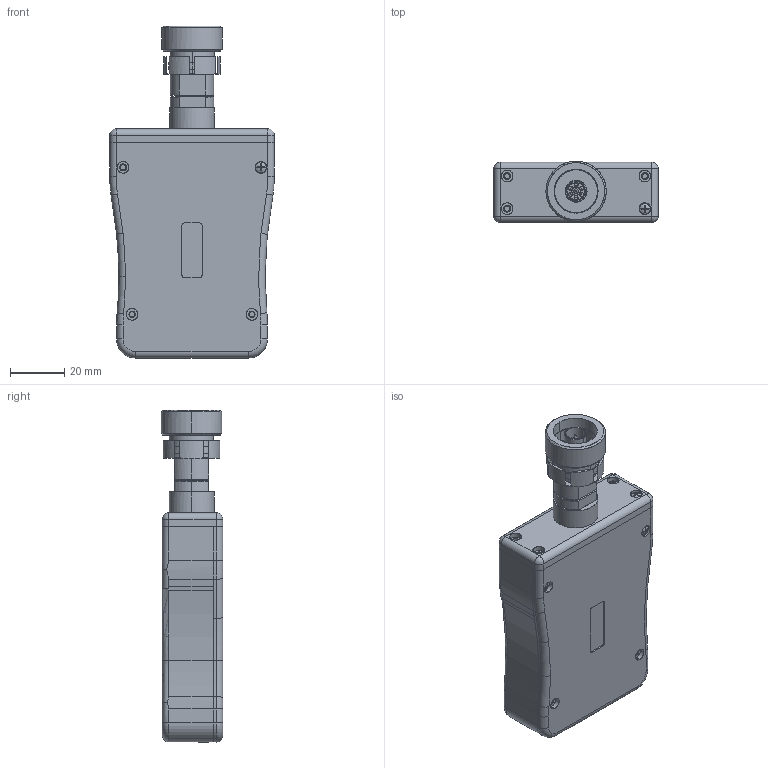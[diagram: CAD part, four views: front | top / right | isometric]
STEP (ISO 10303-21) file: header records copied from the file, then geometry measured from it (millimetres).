
FILE_DESCRIPTION((''),'2;1');
FILE_NAME('CU_NI-USB-5680','2010-03-15T',('jjorden'),(''),'PRO/ENGINEER BY PARAMETRIC TECHNOLOGY CORPORATION, 2006080','PRO/ENGINEER BY PARAMETRIC TECHNOLOGY CORPORATION, 2006080','');
FILE_SCHEMA(('CONFIG_CONTROL_DESIGN'));
Length unit declared in the file: millimetre
Products named in the file (1): CU_NI-USB-5680
Bounding box: 60.4 x 22.56 x 121.93 mm (x, y, z)
Surface area: 51593.4 mm2
Topology: 4 solids, 245 shells, 1123 faces, 3692 edges, 2619 vertices
Faces by surface type: plane 485, cylinder 467, cone 126, torus 24, sphere 14, bspline 5, extrusion 2
Entity records: 47483 total; most frequent: CARTESIAN_POINT 15954, DIRECTION 6595, ORIENTED_EDGE 5745, EDGE_CURVE 3682, VERTEX_POINT 2619, AXIS2_PLACEMENT_3D 2617, CIRCLE 1500, VECTOR 1361
